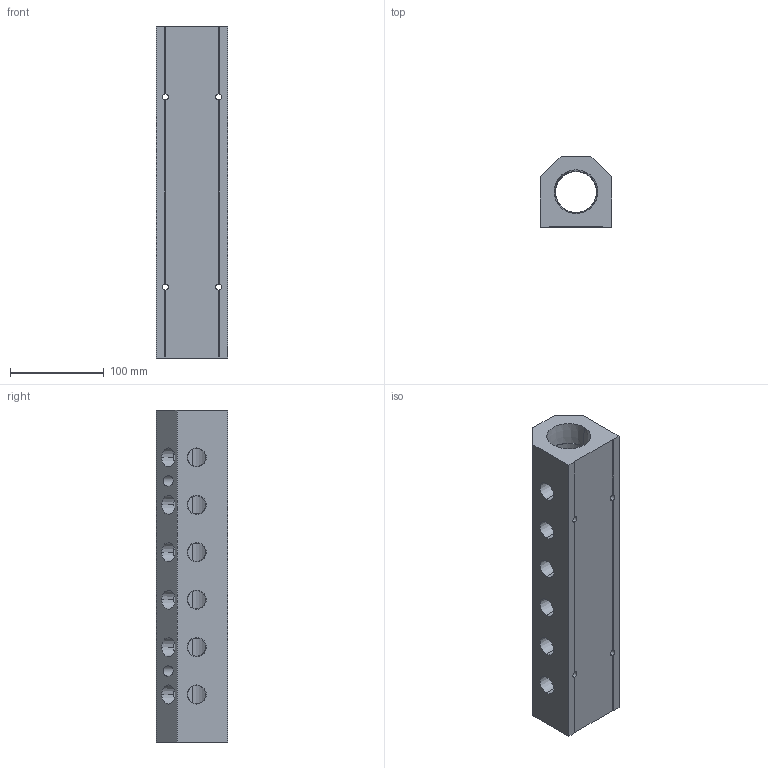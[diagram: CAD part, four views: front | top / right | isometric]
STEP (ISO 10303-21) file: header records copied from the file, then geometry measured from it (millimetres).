
FILE_DESCRIPTION (( 'STEP AP214' ), '1' );
FILE_NAME ('ALM6ABC-N8N24-355B.step', '2022-02-07T09:29:16', ( '' ), ( '' ), 'SwSTEP 2.0', 'SolidWorks 2020', '' );
FILE_SCHEMA (( 'AUTOMOTIVE_DESIGN' ));
Length unit declared in the file: millimetre
Products named in the file (1): ALM6ABC-N8N24-355B
Bounding box: 76.2 x 76.2 x 355 mm (x, y, z)
Volume: 1224619.6 mm3; surface area: 169519.9 mm2
Topology: 1 solids, 1 shells, 362 faces, 1018 edges, 676 vertices
Faces by surface type: plane 212, bspline 92, cone 40, cylinder 18
Entity records: 22121 total; most frequent: CARTESIAN_POINT 10001, ORIENTED_EDGE 2036, DIRECTION 1348, EDGE_CURVE 1018, VERTEX_POINT 676, LINE 662, VECTOR 662, EDGE_LOOP 426
